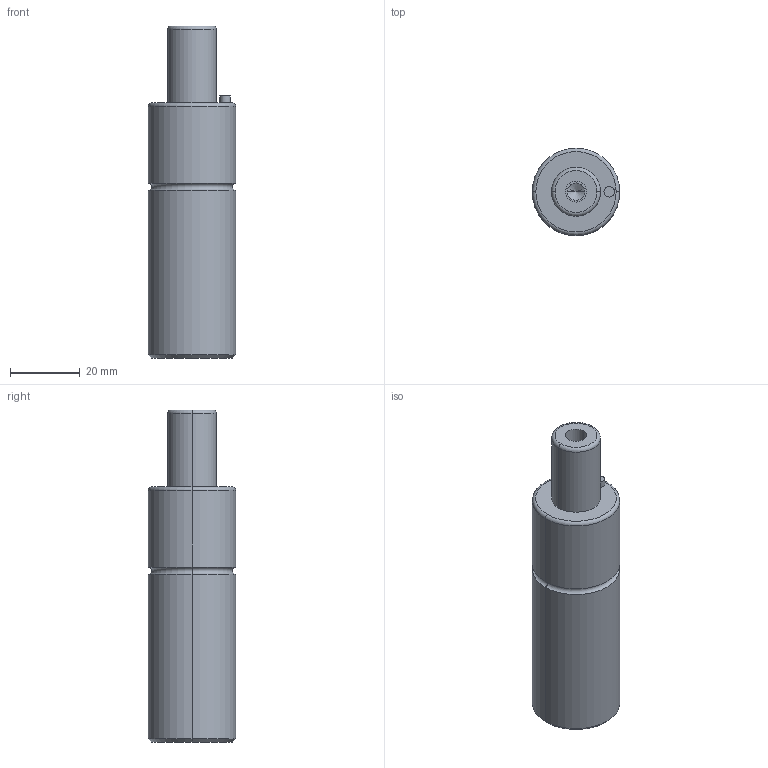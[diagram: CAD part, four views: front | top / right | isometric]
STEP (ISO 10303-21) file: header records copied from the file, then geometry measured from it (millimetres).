
FILE_DESCRIPTION(/* description */ (''),/* implementation_level */ '2;1');
FILE_NAME(/* name */ '3d_gsm25-20_03894_r00.stp',/* time_stamp */ '2011-01-10T14:15:17+09:00',/* author */ ('MISUMI'),/* organization */ (''),/* preprocessor_version */ 'ST-DEVELOPER v11',/* originating_system */ 'UGS - NX 5.0',/* authorisation */ '');
FILE_SCHEMA (('CONFIG_CONTROL_DESIGN'));
Length unit declared in the file: millimetre
Products named in the file (1): 3d_gsm25-20_03894_r00
Bounding box: 25 x 25 x 95 mm (x, y, z)
Volume: 38509 mm3; surface area: 8042.4 mm2
Topology: 1 solids, 1 shells, 34 faces, 70 edges, 40 vertices
Faces by surface type: cylinder 16, cone 6, plane 6, torus 6
Entity records: 964 total; most frequent: DIRECTION 180, CARTESIAN_POINT 141, ORIENTED_EDGE 132, AXIS2_PLACEMENT_3D 79, EDGE_CURVE 66, CIRCLE 44, EDGE_LOOP 40, VERTEX_POINT 40
